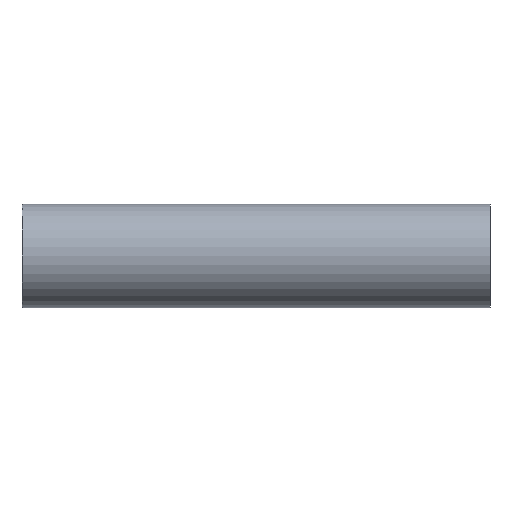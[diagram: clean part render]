
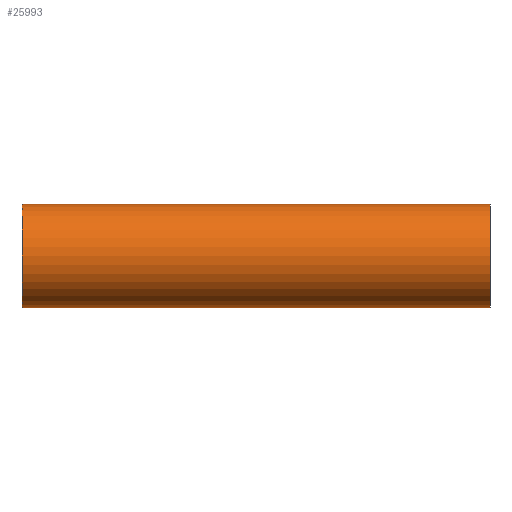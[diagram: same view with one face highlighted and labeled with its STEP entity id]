
A CAD part, left-side view. The second image highlights one B-rep face of the part: STEP entity #25993.
In plain terms, the highlighted cylindrical face has radius 15.975 mm (diameter 31.95 mm), a partial arc.
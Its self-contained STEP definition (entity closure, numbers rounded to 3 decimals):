
#2981 = LINE ( 'NONE', #25705, #25237 ) ;
#3937 = VERTEX_POINT ( 'NONE', #6647 ) ;
#4711 = VERTEX_POINT ( 'NONE', #40540 ) ;
#5531 = EDGE_LOOP ( 'NONE', ( #33150, #33900, #20695, #34250 ) ) ;
#6647 = CARTESIAN_POINT ( 'NONE',  ( 0., 0., 15.975 ) ) ;
#9330 = CARTESIAN_POINT ( 'NONE',  ( 0., 144., 15.975 ) ) ;
#13864 = VERTEX_POINT ( 'NONE', #9330 ) ;
#15734 = DIRECTION ( 'NONE',  ( 0., 1., 0. ) ) ;
#16275 = CARTESIAN_POINT ( 'NONE',  ( 0., 0., 0. ) ) ;
#18466 = DIRECTION ( 'NONE',  ( 0., -1., 0. ) ) ;
#20695 = ORIENTED_EDGE ( 'NONE', *, *, #33200, .T. ) ;
#21522 = DIRECTION ( 'NONE',  ( 0., -1., 0. ) ) ;
#21877 = AXIS2_PLACEMENT_3D ( 'NONE', #43212, #15734, #23886 ) ;
#22314 = CARTESIAN_POINT ( 'NONE',  ( 0., 144., 0. ) ) ;
#23886 = DIRECTION ( 'NONE',  ( 0., 0., 1. ) ) ;
#25115 = AXIS2_PLACEMENT_3D ( 'NONE', #22314, #18466, #50330 ) ;
#25237 = VECTOR ( 'NONE', #21522, 1000. ) ;
#25705 = CARTESIAN_POINT ( 'NONE',  ( 0., 144., 15.975 ) ) ;
#25781 = FACE_OUTER_BOUND ( 'NONE', #5531, .T. ) ;
#25993 = ADVANCED_FACE ( 'NONE', ( #25781 ), #45572, .T. ) ;
#27901 = DIRECTION ( 'NONE',  ( 0., 1., 0. ) ) ;
#29428 = DIRECTION ( 'NONE',  ( 0., -1., 0. ) ) ;
#30015 = LINE ( 'NONE', #49652, #33128 ) ;
#30382 = EDGE_CURVE ( 'NONE', #13864, #3937, #2981, .T. ) ;
#32829 = EDGE_CURVE ( 'NONE', #37295, #3937, #45513, .T. ) ;
#33128 = VECTOR ( 'NONE', #29428, 1000. ) ;
#33150 = ORIENTED_EDGE ( 'NONE', *, *, #30382, .F. ) ;
#33200 = EDGE_CURVE ( 'NONE', #4711, #37295, #30015, .T. ) ;
#33900 = ORIENTED_EDGE ( 'NONE', *, *, #39672, .F. ) ;
#34250 = ORIENTED_EDGE ( 'NONE', *, *, #32829, .T. ) ;
#34651 = CIRCLE ( 'NONE', #21877, 15.975 ) ;
#36360 = DIRECTION ( 'NONE',  ( 0., 0., 1. ) ) ;
#37295 = VERTEX_POINT ( 'NONE', #41380 ) ;
#39672 = EDGE_CURVE ( 'NONE', #4711, #13864, #34651, .T. ) ;
#40540 = CARTESIAN_POINT ( 'NONE',  ( 0., 144., -15.975 ) ) ;
#41380 = CARTESIAN_POINT ( 'NONE',  ( 0., 0., -15.975 ) ) ;
#43212 = CARTESIAN_POINT ( 'NONE',  ( 0., 144., 0. ) ) ;
#45513 = CIRCLE ( 'NONE', #48517, 15.975 ) ;
#45572 = CYLINDRICAL_SURFACE ( 'NONE', #25115, 15.975 ) ;
#48517 = AXIS2_PLACEMENT_3D ( 'NONE', #16275, #27901, #36360 ) ;
#49652 = CARTESIAN_POINT ( 'NONE',  ( 0., 144., -15.975 ) ) ;
#50330 = DIRECTION ( 'NONE',  ( 0., 0., -1. ) ) ;
